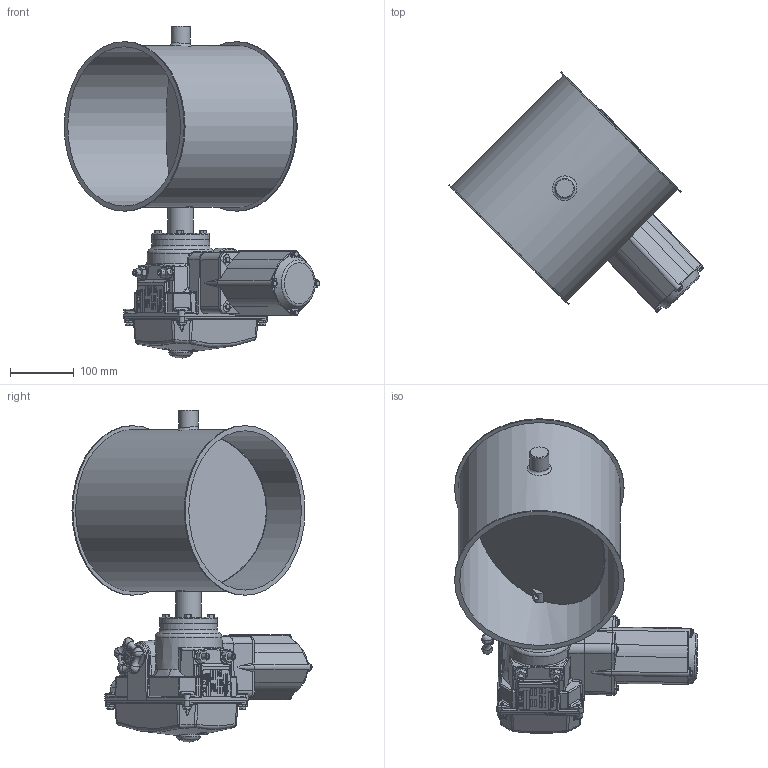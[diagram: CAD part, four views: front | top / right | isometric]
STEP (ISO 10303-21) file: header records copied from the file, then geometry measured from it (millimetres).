
FILE_DESCRIPTION((''),'2;1');
FILE_NAME('U:\Wolfgang\Marcel-3D\fertig\Kapitel 8\2521217.stp','2012-01-13T11:13:35',('iwienholt'),(''),'Autodesk Inventor 2010','Autodesk Inventor 2010','');
FILE_SCHEMA(('AUTOMOTIVE_DESIGN { 1 0 10303 214 1 1 1 1 }'));
Length unit declared in the file: millimetre
Products named in the file (8): 2521217; Bolzen D20; Scheibe250b; 2521211-1; D20 Antrieb LE-10; DIN EN ISO 4018 M6x25; LEB100cc; BuchseD20 90-50
Assembly tree (11 placements, depth 3):
  2521217
    Bolzen D20  x2
    Scheibe250b
    2521211-1
    D20 Antrieb LE-10
      DIN EN ISO 4018 M6x25  x4
      LEB100cc
      BuchseD20 90-50
Bounding box: 399.55 x 375.14 x 518.82 mm (x, y, z)
Volume: 5102764.2 mm3; surface area: 804785.2 mm2
Topology: 10 solids, 10 shells, 1471 faces, 3728 edges, 2346 vertices
Faces by surface type: plane 744, cylinder 282, bspline 235, cone 83, torus 82, sphere 45
Full cylindrical faces by diameter (mm): 5 x4, 5.1 x8, 6 x12, 6.9 x8, 10 x4, 15 x1, 16 x1, 17 x1, 18.6 x2, 20 x4, 20.5 x1, 30 x2, 35 x1, 40 x2, 42 x1, 90 x1, 249 x2, 253 x1, 265 x2
Entity records: 51582 total; most frequent: CARTESIAN_POINT 19250, ORIENTED_EDGE 6696, DIRECTION 5818, EDGE_CURVE 3348, VERTEX_POINT 2203, AXIS2_PLACEMENT_3D 2034, VECTOR 1750, LINE 1750
